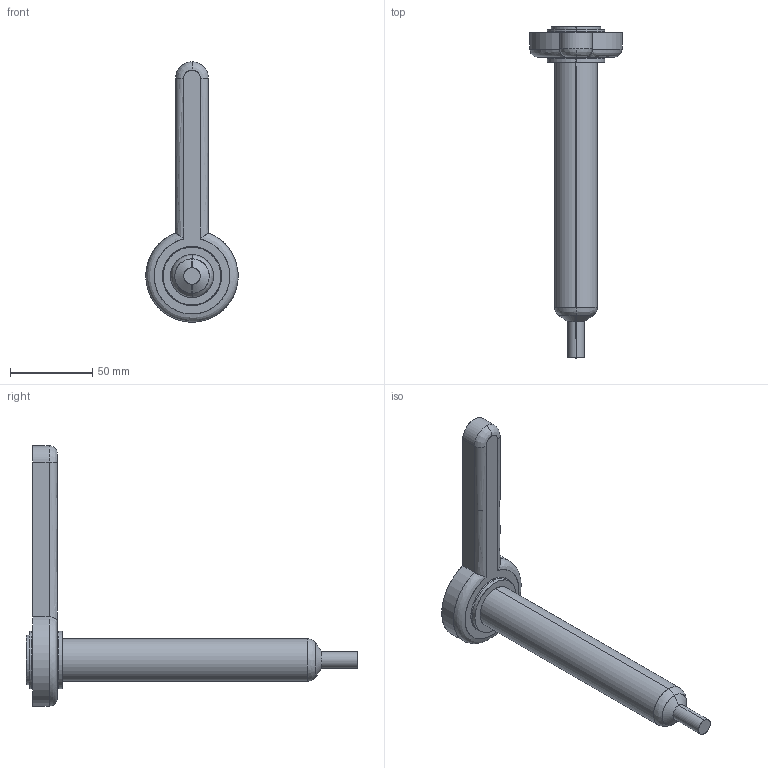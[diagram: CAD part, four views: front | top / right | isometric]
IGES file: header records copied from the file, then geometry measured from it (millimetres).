
Start section: SolidWorks IGES file using analytic representation for surfaces
Global section: file name: C:\Documents and Settings\ws-20\Desktop\TEM\Sede UGEP3154-S-A C-159 L-179 P-25.IGS; native system: SolidWorks 2012; preprocessor: SolidWorks 2012; author: ws-20; date: 120404.085606; units: millimetre
Bounding box: 56 x 201.4 x 158 mm (x, y, z)
Surface area: 27569.2 mm2 (no closed solid volume)
Topology: 0 solids, 0 shells, 34 faces, 754 edges, 754 vertices
Faces by surface type: revolution 21, bspline 13
